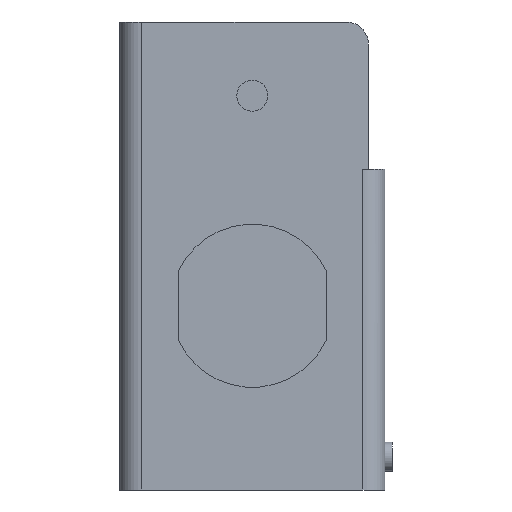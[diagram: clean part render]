
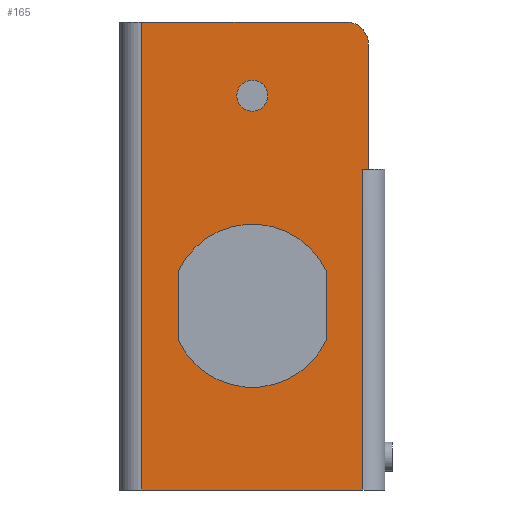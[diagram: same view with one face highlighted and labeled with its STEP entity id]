
A CAD part, front view. The second image highlights one B-rep face of the part: STEP entity #165.
In plain terms, the highlighted planar face has unit normal (0, -1, 0).
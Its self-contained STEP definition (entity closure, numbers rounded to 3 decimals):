
#25 = VERTEX_POINT ( 'NONE', #971 ) ;
#63 = EDGE_CURVE ( 'NONE', #25, #64, #1089, .T. ) ;
#64 = VERTEX_POINT ( 'NONE', #1084 ) ;
#115 = VERTEX_POINT ( 'NONE', #1160 ) ;
#147 = VERTEX_POINT ( 'NONE', #1235 ) ;
#148 = ORIENTED_EDGE ( 'NONE', *, *, #149, .T. ) ;
#149 = EDGE_CURVE ( 'NONE', #147, #169, #1234, .T. ) ;
#150 = EDGE_LOOP ( 'NONE', ( #151, #153 ) ) ;
#151 = ORIENTED_EDGE ( 'NONE', *, *, #152, .T. ) ;
#152 = EDGE_CURVE ( 'NONE', #64, #25, #1230, .T. ) ;
#153 = ORIENTED_EDGE ( 'NONE', *, *, #63, .T. ) ;
#154 = EDGE_LOOP ( 'NONE', ( #155, #159, #161, #217, #218, #219, #220 ) ) ;
#155 = ORIENTED_EDGE ( 'NONE', *, *, #156, .F. ) ;
#156 = EDGE_CURVE ( 'NONE', #157, #158, #1225, .T. ) ;
#157 = VERTEX_POINT ( 'NONE', #1221 ) ;
#158 = VERTEX_POINT ( 'NONE', #1284 ) ;
#159 = ORIENTED_EDGE ( 'NONE', *, *, #160, .T. ) ;
#160 = EDGE_CURVE ( 'NONE', #157, #723, #1283, .T. ) ;
#161 = ORIENTED_EDGE ( 'NONE', *, *, #724, .T. ) ;
#162 = EDGE_CURVE ( 'NONE', #729, #115, #1278, .T. ) ;
#165 = ADVANCED_FACE ( 'NONE', ( #1274, #1273, #1272 ), #1271, .T. ) ;
#166 = EDGE_LOOP ( 'NONE', ( #167, #171, #174, #148 ) ) ;
#167 = ORIENTED_EDGE ( 'NONE', *, *, #168, .T. ) ;
#168 = EDGE_CURVE ( 'NONE', #169, #170, #1266, .T. ) ;
#169 = VERTEX_POINT ( 'NONE', #1261 ) ;
#170 = VERTEX_POINT ( 'NONE', #1260 ) ;
#171 = ORIENTED_EDGE ( 'NONE', *, *, #172, .T. ) ;
#172 = EDGE_CURVE ( 'NONE', #170, #173, #1259, .T. ) ;
#173 = VERTEX_POINT ( 'NONE', #1255 ) ;
#174 = ORIENTED_EDGE ( 'NONE', *, *, #175, .T. ) ;
#175 = EDGE_CURVE ( 'NONE', #173, #147, #1254, .T. ) ;
#180 = EDGE_CURVE ( 'NONE', #888, #115, #1304, .T. ) ;
#217 = ORIENTED_EDGE ( 'NONE', *, *, #162, .T. ) ;
#218 = ORIENTED_EDGE ( 'NONE', *, *, #180, .F. ) ;
#219 = ORIENTED_EDGE ( 'NONE', *, *, #887, .F. ) ;
#220 = ORIENTED_EDGE ( 'NONE', *, *, #221, .F. ) ;
#221 = EDGE_CURVE ( 'NONE', #158, #885, #1373, .T. ) ;
#723 = VERTEX_POINT ( 'NONE', #2244 ) ;
#724 = EDGE_CURVE ( 'NONE', #723, #729, #2243, .T. ) ;
#729 = VERTEX_POINT ( 'NONE', #2232 ) ;
#885 = VERTEX_POINT ( 'NONE', #2490 ) ;
#887 = EDGE_CURVE ( 'NONE', #885, #888, #2489, .T. ) ;
#888 = VERTEX_POINT ( 'NONE', #2485 ) ;
#971 = CARTESIAN_POINT ( 'NONE',  ( -6.007, 7.596, 51.4 ) ) ;
#1084 = CARTESIAN_POINT ( 'NONE',  ( -6.007, 7.596, 55.6 ) ) ;
#1085 = DIRECTION ( 'NONE',  ( -1., 0., 0. ) ) ;
#1086 = DIRECTION ( 'NONE',  ( 0., 1., 0. ) ) ;
#1087 = CARTESIAN_POINT ( 'NONE',  ( -6.007, 7.596, 53.5 ) ) ;
#1088 = AXIS2_PLACEMENT_3D ( 'NONE', #1087, #1086, #1085 ) ;
#1089 = CIRCLE ( 'NONE', #1088, 2.1 ) ;
#1160 = CARTESIAN_POINT ( 'NONE',  ( -21.007, 7.596, 0. ) ) ;
#1221 = CARTESIAN_POINT ( 'NONE',  ( 9.743, 7.596, 60.5 ) ) ;
#1222 = DIRECTION ( 'NONE',  ( 0., 0., -1. ) ) ;
#1223 = VECTOR ( 'NONE', #1222, 1000. ) ;
#1224 = CARTESIAN_POINT ( 'NONE',  ( 9.743, 7.596, 63.5 ) ) ;
#1225 = LINE ( 'NONE', #1224, #1223 ) ;
#1226 = DIRECTION ( 'NONE',  ( -1., 0., 0. ) ) ;
#1227 = DIRECTION ( 'NONE',  ( 0., 1., 0. ) ) ;
#1228 = CARTESIAN_POINT ( 'NONE',  ( -6.007, 7.596, 53.5 ) ) ;
#1229 = AXIS2_PLACEMENT_3D ( 'NONE', #1228, #1227, #1226 ) ;
#1230 = CIRCLE ( 'NONE', #1229, 2.1 ) ;
#1231 = DIRECTION ( 'NONE',  ( 0., 0., 1. ) ) ;
#1232 = VECTOR ( 'NONE', #1231, 1000. ) ;
#1233 = CARTESIAN_POINT ( 'NONE',  ( -16.007, 7.596, 29.75 ) ) ;
#1234 = LINE ( 'NONE', #1233, #1232 ) ;
#1235 = CARTESIAN_POINT ( 'NONE',  ( -16.007, 7.596, 20.25 ) ) ;
#1253 = AXIS2_PLACEMENT_3D ( 'NONE', #1318, #1317, #1316 ) ;
#1254 = CIRCLE ( 'NONE', #1253, 11.071 ) ;
#1255 = CARTESIAN_POINT ( 'NONE',  ( 3.993, 7.596, 20.25 ) ) ;
#1256 = DIRECTION ( 'NONE',  ( 0., 0., -1. ) ) ;
#1257 = VECTOR ( 'NONE', #1256, 1000. ) ;
#1258 = CARTESIAN_POINT ( 'NONE',  ( 3.993, 7.596, 29.75 ) ) ;
#1259 = LINE ( 'NONE', #1258, #1257 ) ;
#1260 = CARTESIAN_POINT ( 'NONE',  ( 3.993, 7.596, 29.75 ) ) ;
#1261 = CARTESIAN_POINT ( 'NONE',  ( -16.007, 7.596, 29.75 ) ) ;
#1262 = DIRECTION ( 'NONE',  ( 1., 0., 0. ) ) ;
#1263 = DIRECTION ( 'NONE',  ( 0., 1., 0. ) ) ;
#1264 = CARTESIAN_POINT ( 'NONE',  ( -6.007, 7.596, 25. ) ) ;
#1265 = AXIS2_PLACEMENT_3D ( 'NONE', #1264, #1263, #1262 ) ;
#1266 = CIRCLE ( 'NONE', #1265, 11.071 ) ;
#1267 = DIRECTION ( 'NONE',  ( 1., 0., 0. ) ) ;
#1268 = DIRECTION ( 'NONE',  ( 0., -1., 0. ) ) ;
#1269 = CARTESIAN_POINT ( 'NONE',  ( 11.993, 7.596, 63.5 ) ) ;
#1270 = AXIS2_PLACEMENT_3D ( 'NONE', #1269, #1268, #1267 ) ;
#1271 = PLANE ( 'NONE',  #1270 ) ;
#1272 = FACE_OUTER_BOUND ( 'NONE', #154, .T. ) ;
#1273 = FACE_BOUND ( 'NONE', #150, .T. ) ;
#1274 = FACE_BOUND ( 'NONE', #166, .T. ) ;
#1275 = DIRECTION ( 'NONE',  ( 0., 0., -1. ) ) ;
#1276 = VECTOR ( 'NONE', #1275, 1000. ) ;
#1277 = CARTESIAN_POINT ( 'NONE',  ( -21.007, 7.596, 63.5 ) ) ;
#1278 = LINE ( 'NONE', #1277, #1276 ) ;
#1279 = DIRECTION ( 'NONE',  ( 1., 0., 0. ) ) ;
#1280 = DIRECTION ( 'NONE',  ( 0., -1., 0. ) ) ;
#1281 = CARTESIAN_POINT ( 'NONE',  ( 6.743, 7.596, 60.5 ) ) ;
#1282 = AXIS2_PLACEMENT_3D ( 'NONE', #1281, #1280, #1279 ) ;
#1283 = CIRCLE ( 'NONE', #1282, 3. ) ;
#1284 = CARTESIAN_POINT ( 'NONE',  ( 9.743, 7.596, 43.5 ) ) ;
#1301 = DIRECTION ( 'NONE',  ( -1., 0., 0. ) ) ;
#1302 = VECTOR ( 'NONE', #1301, 1000. ) ;
#1303 = CARTESIAN_POINT ( 'NONE',  ( 11.993, 7.596, 0. ) ) ;
#1304 = LINE ( 'NONE', #1303, #1302 ) ;
#1316 = DIRECTION ( 'NONE',  ( -1., 0., 0. ) ) ;
#1317 = DIRECTION ( 'NONE',  ( 0., 1., 0. ) ) ;
#1318 = CARTESIAN_POINT ( 'NONE',  ( -6.007, 7.596, 25. ) ) ;
#1370 = DIRECTION ( 'NONE',  ( -1., 0., 0. ) ) ;
#1371 = VECTOR ( 'NONE', #1370, 1000. ) ;
#1372 = CARTESIAN_POINT ( 'NONE',  ( 9.743, 7.596, 43.5 ) ) ;
#1373 = LINE ( 'NONE', #1372, #1371 ) ;
#2232 = CARTESIAN_POINT ( 'NONE',  ( -21.007, 7.596, 63.5 ) ) ;
#2240 = DIRECTION ( 'NONE',  ( -1., 0., 0. ) ) ;
#2241 = VECTOR ( 'NONE', #2240, 1000. ) ;
#2242 = CARTESIAN_POINT ( 'NONE',  ( 11.993, 7.596, 63.5 ) ) ;
#2243 = LINE ( 'NONE', #2242, #2241 ) ;
#2244 = CARTESIAN_POINT ( 'NONE',  ( 6.743, 7.596, 63.5 ) ) ;
#2485 = CARTESIAN_POINT ( 'NONE',  ( 8.993, 7.596, 0. ) ) ;
#2486 = DIRECTION ( 'NONE',  ( 0., 0., -1. ) ) ;
#2487 = VECTOR ( 'NONE', #2486, 1000. ) ;
#2488 = CARTESIAN_POINT ( 'NONE',  ( 8.993, 7.596, 63.5 ) ) ;
#2489 = LINE ( 'NONE', #2488, #2487 ) ;
#2490 = CARTESIAN_POINT ( 'NONE',  ( 8.993, 7.596, 43.5 ) ) ;
